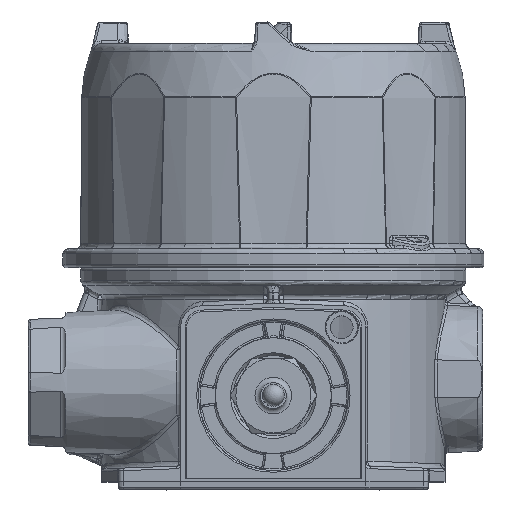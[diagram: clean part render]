
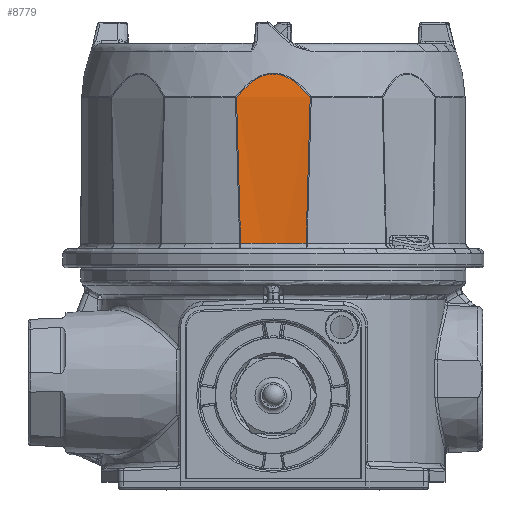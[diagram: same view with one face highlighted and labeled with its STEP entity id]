
A CAD part, top view. The second image highlights one B-rep face of the part: STEP entity #8779.
In plain terms, the highlighted conical face has half-angle 0.5 degrees and reference radius 83.16 mm.
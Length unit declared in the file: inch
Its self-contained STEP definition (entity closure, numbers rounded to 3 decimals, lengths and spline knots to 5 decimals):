
#563 = CARTESIAN_POINT ( 'NONE',  ( -0.38208, 2.87234, 2.2461 ) ) ;
#573 = CARTESIAN_POINT ( 'NONE',  ( -0.08794, 4.83395, 2.20759 ) ) ;
#699 = FACE_OUTER_BOUND ( 'NONE', #72821, .T. ) ;
#953 = CARTESIAN_POINT ( 'NONE',  ( -0.15039, 4.81148, 2.21007 ) ) ;
#1056 = ORIENTED_EDGE ( 'NONE', *, *, #28641, .T. ) ;
#1189 = CARTESIAN_POINT ( 'NONE',  ( 0.38206, 2.87145, 2.24611 ) ) ;
#1338 = CARTESIAN_POINT ( 'NONE',  ( 0.05421, 4.84065, 2.20685 ) ) ;
#1424 = EDGE_CURVE ( 'NONE', #53250, #28775, #52432, .T. ) ;
#1437 = AXIS2_PLACEMENT_3D ( 'NONE', #13241, #36012, #24260 ) ;
#3660 = B_SPLINE_CURVE_WITH_KNOTS ( 'NONE', 3,
 ( #33532, #64518, #10360, #17043 ),
 .UNSPECIFIED., .F., .F.,
 ( 4, 4 ),
 ( 0., 0.04314 ),
 .UNSPECIFIED. ) ;
#4142 = VERTEX_POINT ( 'NONE', #67293 ) ;
#6446 = CARTESIAN_POINT ( 'NONE',  ( 0.02129, 4.84441, 2.20643 ) ) ;
#6835 = CARTESIAN_POINT ( 'NONE',  ( 0.27897, 4.72997, 2.21911 ) ) ;
#7215 = CARTESIAN_POINT ( 'NONE',  ( -0.02303, 4.84485, 2.20639 ) ) ;
#7963 = EDGE_CURVE ( 'NONE', #73623, #4142, #47758, .T. ) ;
#8326 = CARTESIAN_POINT ( 'NONE',  ( 0.42941, 4.57016, 2.23711 ) ) ;
#8779 = ADVANCED_FACE ( 'NONE', ( #699 ), #30394, .F. ) ;
#10360 = CARTESIAN_POINT ( 'NONE',  ( 0.4145, 4.0042, 2.24011 ) ) ;
#10388 = B_SPLINE_CURVE_WITH_KNOTS ( 'NONE', 3,
 ( #563, #17835, #18609, #71993 ),
 .UNSPECIFIED., .F., .F.,
 ( 4, 4 ),
 ( 0., 0.00002 ),
 .UNSPECIFIED. ) ;
#13114 = CARTESIAN_POINT ( 'NONE',  ( 0.31159, 4.70079, 2.22237 ) ) ;
#13241 = CARTESIAN_POINT ( 'NONE',  ( 0., 5.201, 5.47727 ) ) ;
#13497 = CARTESIAN_POINT ( 'NONE',  ( -0.31254, 4.69988, 2.22247 ) ) ;
#17043 = CARTESIAN_POINT ( 'NONE',  ( 0.42941, 4.57016, 2.23711 ) ) ;
#17835 = CARTESIAN_POINT ( 'NONE',  ( -0.38207, 2.87205, 2.24611 ) ) ;
#18476 = CARTESIAN_POINT ( 'NONE',  ( -0.38208, 2.87234, 2.2461 ) ) ;
#18609 = CARTESIAN_POINT ( 'NONE',  ( -0.38206, 2.87175, 2.24611 ) ) ;
#19393 = CARTESIAN_POINT ( 'NONE',  ( 0.20759, 4.78065, 2.21348 ) ) ;
#19627 = CARTESIAN_POINT ( 'NONE',  ( 0.38208, 2.87234, 2.2461 ) ) ;
#21637 = ORIENTED_EDGE ( 'NONE', *, *, #74020, .T. ) ;
#23117 = B_SPLINE_CURVE_WITH_KNOTS ( 'NONE', 3,
 ( #1189, #72231, #38059, #19627 ),
 .UNSPECIFIED., .F., .F.,
 ( 4, 4 ),
 ( 0., 0.00002 ),
 .UNSPECIFIED. ) ;
#23437 = CARTESIAN_POINT ( 'NONE',  ( 0., 2.87145, 5.47727 ) ) ;
#24260 = DIRECTION ( 'NONE',  ( 0., 0., -1. ) ) ;
#24523 = CARTESIAN_POINT ( 'NONE',  ( -0.10939, 4.82751, 2.2083 ) ) ;
#24907 = CARTESIAN_POINT ( 'NONE',  ( -0.28008, 4.72908, 2.21921 ) ) ;
#25075 = B_SPLINE_CURVE_WITH_KNOTS ( 'NONE', 3,
 ( #59699, #72243, #72633, #18476 ),
 .UNSPECIFIED., .F., .F.,
 ( 4, 4 ),
 ( 0., 0.04314 ),
 .UNSPECIFIED. ) ;
#25297 = CARTESIAN_POINT ( 'NONE',  ( -0.22665, 4.76816, 2.21486 ) ) ;
#25550 = EDGE_CURVE ( 'NONE', #28775, #62079, #23117, .T. ) ;
#26326 = CARTESIAN_POINT ( 'NONE',  ( 0.38206, 2.87145, 2.24611 ) ) ;
#28641 = EDGE_CURVE ( 'NONE', #4142, #75788, #25075, .T. ) ;
#28775 = VERTEX_POINT ( 'NONE', #26326 ) ;
#29547 = CARTESIAN_POINT ( 'NONE',  ( -0.37362, 4.63765, 2.22946 ) ) ;
#30394 = CONICAL_SURFACE ( 'NONE', #1437, 3.274, 0.009 ) ;
#30775 = CARTESIAN_POINT ( 'NONE',  ( 0.16907, 4.80243, 2.21107 ) ) ;
#31161 = CARTESIAN_POINT ( 'NONE',  ( -0.04485, 4.84258, 2.20664 ) ) ;
#33532 = CARTESIAN_POINT ( 'NONE',  ( 0.38208, 2.87234, 2.2461 ) ) ;
#35811 = CARTESIAN_POINT ( 'NONE',  ( -0.40219, 4.60458, 2.2332 ) ) ;
#36012 = DIRECTION ( 'NONE',  ( 0., 1., 0. ) ) ;
#38059 = CARTESIAN_POINT ( 'NONE',  ( 0.38207, 2.87205, 2.24611 ) ) ;
#41855 = ORIENTED_EDGE ( 'NONE', *, *, #1424, .T. ) ;
#41978 = EDGE_CURVE ( 'NONE', #75788, #53250, #10388, .T. ) ;
#42157 = CARTESIAN_POINT ( 'NONE',  ( 0.08653, 4.83432, 2.20755 ) ) ;
#42933 = CARTESIAN_POINT ( 'NONE',  ( 0.14896, 4.81213, 2.20999 ) ) ;
#45180 = CARTESIAN_POINT ( 'NONE',  ( -0.38206, 2.87145, 2.24611 ) ) ;
#47337 = DIRECTION ( 'NONE',  ( 0., -1., 0. ) ) ;
#47758 = B_SPLINE_CURVE_WITH_KNOTS ( 'NONE', 3,
 ( #54316, #60999, #60613, #13114, #6835, #67264, #19393, #30775, #42933, #49202, #42157, #1338, #54698, #6446, #66875, #7215, #31161, #573, #24523, #953, #66101, #55086, #25297, #24907, #13497, #29547, #35811, #70357 ),
 .UNSPECIFIED., .F., .F.,
 ( 4, 2, 2, 2, 2, 2, 2, 2, 2, 2, 2, 2, 2, 4 ),
 ( 0., 0.00336, 0.00673, 0.00841, 0.01009, 0.01177, 0.01261, 0.01345, 0.01514, 0.01682, 0.0185, 0.02018, 0.02355, 0.02691 ),
 .UNSPECIFIED. ) ;
#48672 = AXIS2_PLACEMENT_3D ( 'NONE', #23437, #47337, #71305 ) ;
#49202 = CARTESIAN_POINT ( 'NONE',  ( 0.10761, 4.8281, 2.20823 ) ) ;
#52432 = CIRCLE ( 'NONE', #48672, 3.25367 ) ;
#53250 = VERTEX_POINT ( 'NONE', #45180 ) ;
#54316 = CARTESIAN_POINT ( 'NONE',  ( 0.42941, 4.57016, 2.23711 ) ) ;
#54698 = CARTESIAN_POINT ( 'NONE',  ( 0.04332, 4.84226, 2.20667 ) ) ;
#55086 = CARTESIAN_POINT ( 'NONE',  ( -0.20819, 4.78027, 2.21352 ) ) ;
#56830 = ORIENTED_EDGE ( 'NONE', *, *, #7963, .T. ) ;
#59699 = CARTESIAN_POINT ( 'NONE',  ( -0.42941, 4.57016, 2.23711 ) ) ;
#60613 = CARTESIAN_POINT ( 'NONE',  ( 0.37332, 4.63801, 2.22942 ) ) ;
#60999 = CARTESIAN_POINT ( 'NONE',  ( 0.40211, 4.60468, 2.23319 ) ) ;
#62079 = VERTEX_POINT ( 'NONE', #77359 ) ;
#64518 = CARTESIAN_POINT ( 'NONE',  ( 0.39883, 3.43826, 2.24311 ) ) ;
#66101 = CARTESIAN_POINT ( 'NONE',  ( -0.17008, 4.8019, 2.21112 ) ) ;
#66663 = ORIENTED_EDGE ( 'NONE', *, *, #41978, .T. ) ;
#66875 = CARTESIAN_POINT ( 'NONE',  ( 0.01011, 4.84494, 2.20638 ) ) ;
#67264 = CARTESIAN_POINT ( 'NONE',  ( 0.22595, 4.76863, 2.21481 ) ) ;
#67293 = CARTESIAN_POINT ( 'NONE',  ( -0.42941, 4.57016, 2.23711 ) ) ;
#70251 = CARTESIAN_POINT ( 'NONE',  ( -0.38208, 2.87234, 2.2461 ) ) ;
#70357 = CARTESIAN_POINT ( 'NONE',  ( -0.42941, 4.57016, 2.23711 ) ) ;
#71305 = DIRECTION ( 'NONE',  ( 0., 0., -1. ) ) ;
#71993 = CARTESIAN_POINT ( 'NONE',  ( -0.38206, 2.87145, 2.24611 ) ) ;
#72231 = CARTESIAN_POINT ( 'NONE',  ( 0.38206, 2.87175, 2.24611 ) ) ;
#72243 = CARTESIAN_POINT ( 'NONE',  ( -0.4145, 4.0042, 2.24011 ) ) ;
#72633 = CARTESIAN_POINT ( 'NONE',  ( -0.39883, 3.43826, 2.24311 ) ) ;
#72821 = EDGE_LOOP ( 'NONE', ( #41855, #76326, #21637, #56830, #1056, #66663 ) ) ;
#73623 = VERTEX_POINT ( 'NONE', #8326 ) ;
#74020 = EDGE_CURVE ( 'NONE', #62079, #73623, #3660, .T. ) ;
#75788 = VERTEX_POINT ( 'NONE', #70251 ) ;
#76326 = ORIENTED_EDGE ( 'NONE', *, *, #25550, .T. ) ;
#77359 = CARTESIAN_POINT ( 'NONE',  ( 0.38208, 2.87234, 2.2461 ) ) ;
